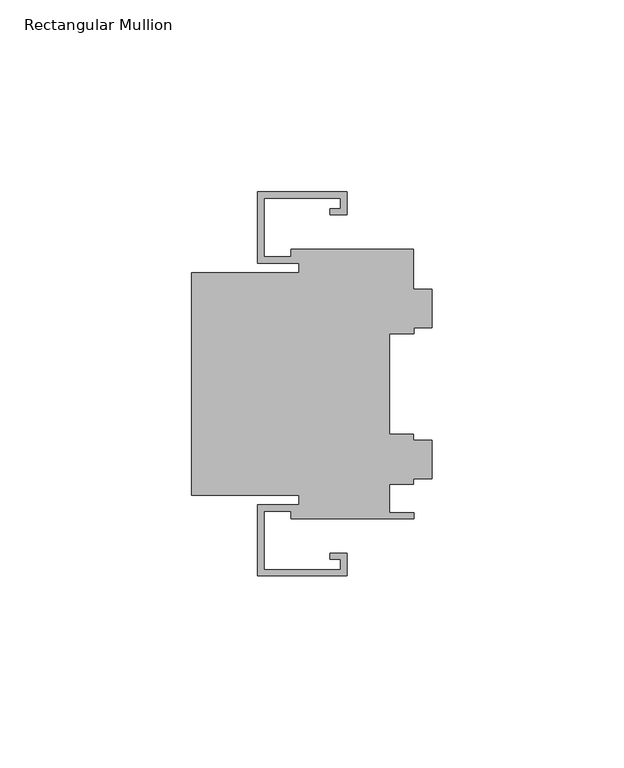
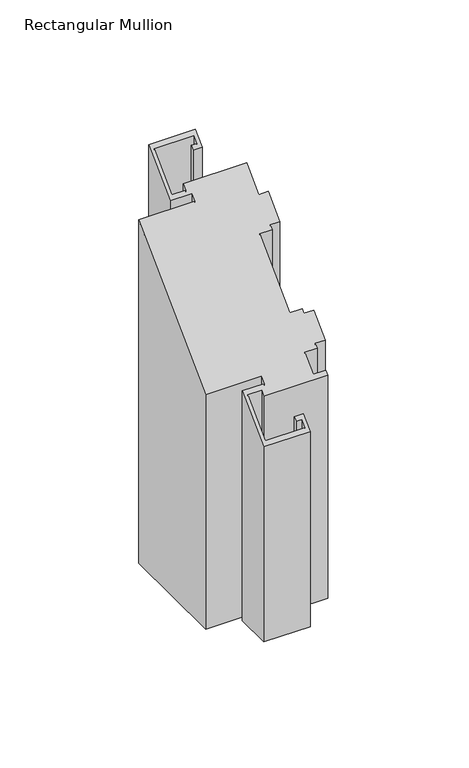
"""IFC4 building model written with IfcOpenShell, lengths in millimetres: member geometry, Rectangular Mullion : Frame-Teknion-OptosLP-Ceiling_Top_Spacer."""

from ifc_helpers import new_model, si_unit, origin, place, context, project, spatial, faceted_brep, source, transform, mapped, element, save


def rectangular_mullion_f3ed77f7(model_context):
    return source(origin(), model_context, "Body", "Brep", [
        faceted_brep([(-22.1967604, 49.9999002, -153.640806), (-22.1967604, 44.030901, -153.640806), (-26.6417618, 44.030901, -153.640806), (-26.6417618, 45.6819013, -153.640806), (-23.8477606, 45.6819013, -153.640806), (-23.8477606, 48.3488999, -153.640806), (-43.7867608, 48.3488999, -153.640806), (-43.7867608, 33.1089012, -153.640806), (-36.801761, 33.1089012, -153.640806), (-36.801761, 35.1409018, -153.640806), (-4.7977622, 35.1409018, -153.640806), (-4.7977622, 24.6315641, -153.640806), (0.0, 24.6315641, -153.640806), (0.0, 14.6103429, -153.640806), (-4.7762384, 14.6103429, -153.640806), (-4.7762384, 13.0810002, -153.640806), (-11.1477617, 13.0810002, -153.640806), (-11.1477617, -13.0810002, -153.640806), (-4.7977622, -13.0810002, -153.640806), (-4.7977622, -14.6111051, -153.640806), (0.0, -14.6111051, -153.640806), (0.0, -24.6323263, -153.640806), (-4.7977622, -24.6323263, -153.640806), (-4.7977622, -26.1620004, -153.640806), (-11.1450644, -26.1620004, -153.640806), (-11.1450644, -33.4899016, -153.640806), (-4.7762384, -33.4899016, -153.640806), (-4.7762384, -35.1409018, -153.640806), (-36.801761, -35.1409018, -153.640806), (-36.801761, -33.1089012, -153.640806), (-43.7867608, -33.1089012, -153.640806), (-43.7867608, -48.3488999, -153.640806), (-23.8477606, -48.3488999, -153.640806), (-23.8477606, -45.6819013, -153.640806), (-26.6417618, -45.6819013, -153.640806), (-26.6417618, -44.030901, -153.640806), (-22.1967604, -44.030901, -153.640806), (-22.1967604, -49.9999002, -153.640806), (-45.4377611, -49.9999002, -153.640806), (-45.4377611, -31.457901, -153.640806), (-34.6173606, -31.457901, -153.640806), (-34.6173606, -28.9941, -153.640806), (-62.608161, -28.9941, -153.640806), (-62.608161, 28.9941, -153.640806), (-34.6173606, 28.9941, -153.640806), (-34.6173606, 31.457901, -153.640806), (-45.4377611, 31.457901, -153.640806), (-45.4377611, 49.9999002, -153.640806), (-45.4377611, 49.9999002, 49.9999002), (-22.1967604, 49.9999002, 49.9999002), (-45.4377611, 31.457901, 31.457901), (-34.6173606, 31.457901, 31.457901), (-34.6173606, 28.9941, 28.9941), (-62.608161, 28.9941, 28.9941), (-62.608161, -28.9941, -28.9941), (-34.6173606, -28.9941, -28.9941), (-34.6173606, -31.457901, -31.457901), (-45.4377611, -31.457901, -31.457901), (-45.4377611, -49.9999002, -49.9999002), (-22.1967604, -49.9999002, -49.9999002), (-22.1967604, -44.030901, -44.030901), (-26.6417618, -44.030901, -44.030901), (-26.6417618, -45.6819013, -45.6819013), (-23.8477606, -45.6819013, -45.6819013), (-23.8477606, -48.3488999, -48.3488999), (-43.7867608, -48.3488999, -48.3488999), (-43.7867608, -33.1089012, -33.1089012), (-36.801761, -33.1089012, -33.1089012), (-36.801761, -35.1409018, -35.1409018), (-4.7762384, -35.1409018, -35.1409018), (-4.7762384, -33.4899016, -33.4899016), (-11.1450644, -33.4899016, -33.4899016), (-11.1450644, -26.1620004, -26.1620004), (-4.7977622, -26.1620004, -26.1620004), (-4.7977622, -24.6323263, -24.6323263), (0.0, -24.6323263, -24.6323263), (0.0, -14.6111051, -14.6111051), (-4.7977622, -14.6111051, -14.6111051), (-4.7977622, -13.0810002, -13.0810002), (-11.1477617, -13.0810002, -13.0810002), (-11.1477617, 13.0810002, 13.0810002), (-4.7762384, 13.0810002, 13.0810002), (-4.7762384, 14.6103429, 14.6103429), (0.0, 14.6103429, 14.6103429), (0.0, 24.6315641, 24.6315641), (-4.7977622, 24.6315641, 24.6315641), (-4.7977622, 35.1409018, 35.1409018), (-36.801761, 35.1409018, 35.1409018), (-36.801761, 33.1089012, 33.1089012), (-43.7867608, 33.1089012, 33.1089012), (-43.7867608, 48.3488999, 48.3488999), (-23.8477606, 48.3488999, 48.3488999), (-23.8477606, 45.6819013, 45.6819013), (-26.6417618, 45.6819013, 45.6819013), (-26.6417618, 44.030901, 44.030901), (-22.1967604, 44.030901, 44.030901)], [[[0, 1, 2, 3, 4, 5, 6, 7, 8, 9, 10, 11, 12, 13, 14, 15, 16, 17, 18, 19, 20, 21, 22, 23, 24, 25, 26, 27, 28, 29, 30, 31, 32, 33, 34, 35, 36, 37, 38, 39, 40, 41, 42, 43, 44, 45, 46, 47]], [[48, 49, 0, 47]], [[50, 48, 47, 46]], [[51, 50, 46, 45]], [[52, 51, 45, 44]], [[53, 52, 44, 43]], [[54, 53, 43, 42]], [[55, 54, 42, 41]], [[56, 55, 41, 40]], [[57, 56, 40, 39]], [[58, 57, 39, 38]], [[59, 58, 38, 37]], [[60, 59, 37, 36]], [[61, 60, 36, 35]], [[62, 61, 35, 34]], [[63, 62, 34, 33]], [[64, 63, 33, 32]], [[65, 64, 32, 31]], [[66, 65, 31, 30]], [[67, 66, 30, 29]], [[68, 67, 29, 28]], [[69, 68, 28, 27]], [[70, 69, 27, 26]], [[71, 70, 26, 25]], [[72, 71, 25, 24]], [[73, 72, 24, 23]], [[74, 73, 23, 22]], [[75, 74, 22, 21]], [[76, 75, 21, 20]], [[77, 76, 20, 19]], [[78, 77, 19, 18]], [[79, 78, 18, 17]], [[80, 79, 17, 16]], [[81, 80, 16, 15]], [[82, 81, 15, 14]], [[83, 82, 14, 13]], [[84, 83, 13, 12]], [[85, 84, 12, 11]], [[86, 85, 11, 10]], [[87, 86, 10, 9]], [[88, 87, 9, 8]], [[89, 88, 8, 7]], [[90, 89, 7, 6]], [[91, 90, 6, 5]], [[92, 91, 5, 4]], [[93, 92, 4, 3]], [[94, 93, 3, 2]], [[95, 94, 2, 1]], [[49, 95, 1, 0]], [[49, 48, 50, 51, 52, 53, 54, 55, 56, 57, 58, 59, 60, 61, 62, 63, 64, 65, 66, 67, 68, 69, 70, 71, 72, 73, 74, 75, 76, 77, 78, 79, 80, 81, 82, 83, 84, 85, 86, 87, 88, 89, 90, 91, 92, 93, 94, 95]]]),
    ])


if __name__ == "__main__":
    model = new_model("IFC4")
    model_context = context("Model", 3, world=origin())
    ifc_project = project(units=[si_unit("LENGTHUNIT", "METRE", prefix="MILLI")], contexts=[model_context])
    site = spatial("IfcSite", under=ifc_project)
    building = spatial("IfcBuilding", under=site)
    placement = place(None, origin())
    rectangular_mullion_shape = rectangular_mullion_f3ed77f7(model_context)
    element("IfcMember", 1, ObjectType="Rectangular Mullion : Frame-Teknion-OptosLP-Ceiling_Top_Spacer", at=placement, inside=building, context=model_context, shape_type="MappedRepresentation", body=[
        mapped(rectangular_mullion_shape, transform((0.0, 0.0, 0.0), x_axis=(1.0, 0.0, 0.0), y_axis=(0.0, 1.0, 0.0), z_axis=(0.0, 0.0, 1.0))),
    ])
    save(model, "model.ifc")
